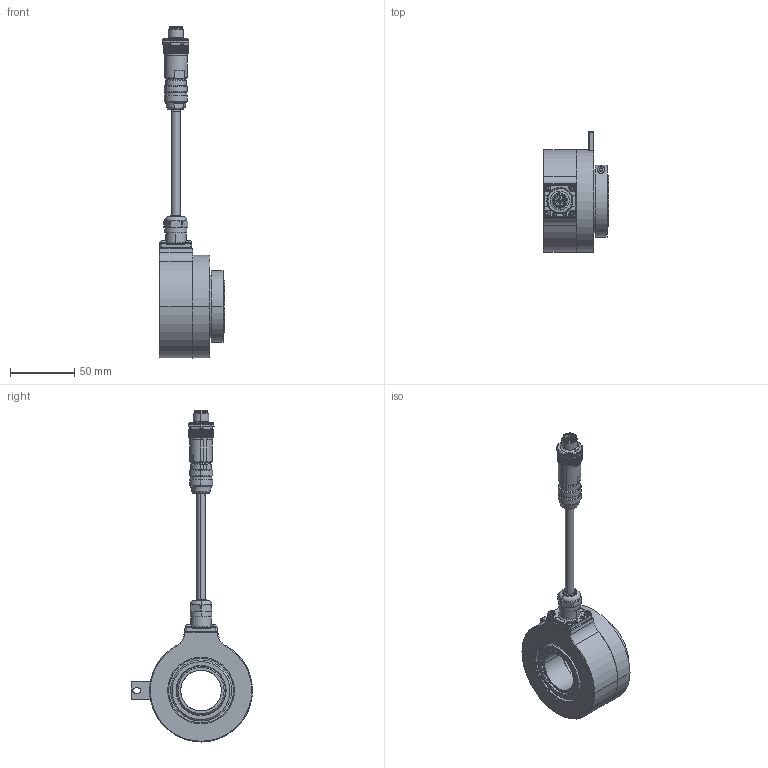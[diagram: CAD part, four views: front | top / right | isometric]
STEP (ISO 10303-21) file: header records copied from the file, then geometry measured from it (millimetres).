
FILE_DESCRIPTION (( 'STEP AP203' ), '1' );
FILE_NAME ('K80I.OXX.XXXXX.XH2189A.6XR13.XXXX.step', '2025-12-09T10:17:53', ( '' ), ( '' ), 'SwSTEP 2.0', 'SolidWorks 2021', '' );
FILE_SCHEMA (( 'CONFIG_CONTROL_DESIGN' ));
Length unit declared in the file: millimetre
Products named in the file (1): K80I.OXX.XXXXX.XH2189A.6XR13.XXXX
Bounding box: 51.2 x 94.28 x 258.56 mm (x, y, z)
Volume: 211067.7 mm3; surface area: 81637.4 mm2
Topology: 23 solids, 23 shells, 1692 faces, 4213 edges, 2596 vertices
Faces by surface type: plane 664, cylinder 585, cone 324, bspline 60, torus 43, sphere 16
Entity records: 53767 total; most frequent: CARTESIAN_POINT 14366, ORIENTED_EDGE 8386, DIRECTION 8130, EDGE_CURVE 4193, AXIS2_PLACEMENT_3D 3186, VERTEX_POINT 2594, EDGE_LOOP 1771, VECTOR 1758
